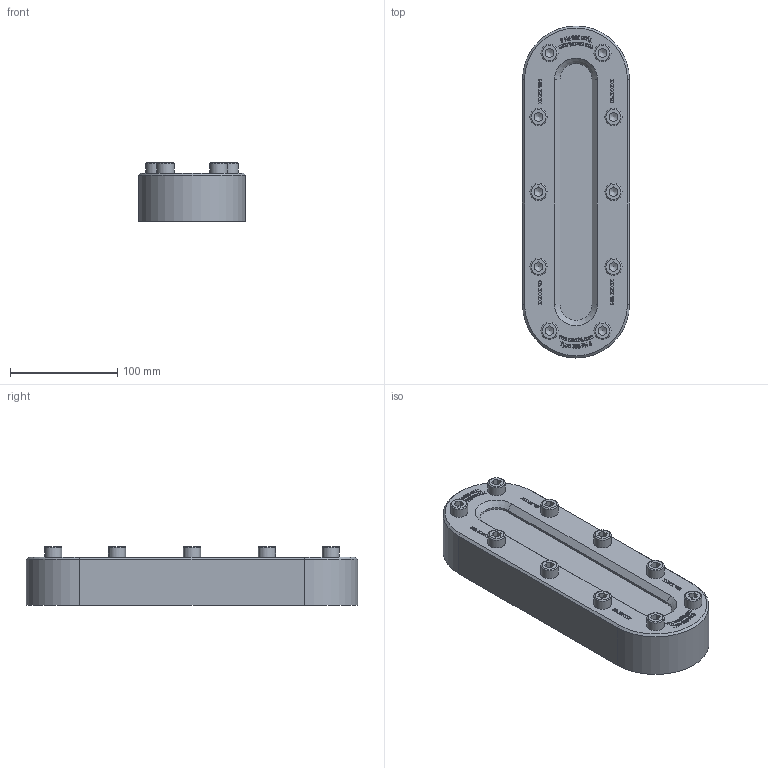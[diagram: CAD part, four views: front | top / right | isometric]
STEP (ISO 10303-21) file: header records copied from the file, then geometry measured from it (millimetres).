
FILE_DESCRIPTION(/* description */ (''),/* implementation_level */ '2;1');
FILE_NAME(/* name */ 'W:\Konstruktion_ACI\336\STEP\ACI-336-310.stp',/* time_stamp */ '2022-03-08T13:19:28+01:00',/* author */ ('Travnicek'),/* organization */ ('ACI Industriearmaturen'),/* preprocessor_version */ 'ST-DEVELOPER v16.1',/* originating_system */ 'Autodesk Inventor 2016',/* authorisation */ '');
FILE_SCHEMA (('AUTOMOTIVE_DESIGN { 1 0 10303 214 3 1 1 }'));
Length unit declared in the file: centimetre
Products named in the file (1): 336-ZB
Bounding box: 100 x 310 x 54.9 mm (x, y, z)
Volume: 1117652.9 mm3; surface area: 108698.2 mm2
Topology: 1 solids, 1 shells, 1370 faces, 3750 edges, 2494 vertices
Faces by surface type: plane 894, bspline 436, cylinder 16, cone 14, torus 10
Full cylindrical faces by diameter (mm): 16 x10
Entity records: 46108 total; most frequent: CARTESIAN_POINT 13333, ORIENTED_EDGE 7400, DIRECTION 4684, EDGE_CURVE 3700, LINE 2722, VECTOR 2722, VERTEX_POINT 2474, EDGE_LOOP 1512
